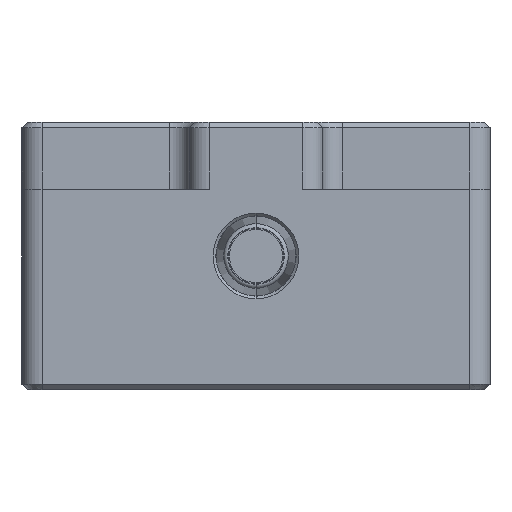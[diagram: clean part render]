
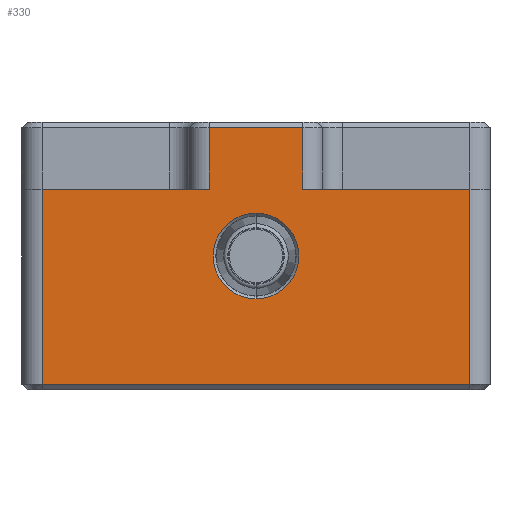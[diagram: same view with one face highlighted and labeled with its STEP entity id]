
A CAD part, front view. The second image highlights one B-rep face of the part: STEP entity #330.
In plain terms, the highlighted planar face has unit normal (0, -1, 0).
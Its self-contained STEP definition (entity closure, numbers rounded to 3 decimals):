
#82 = CARTESIAN_POINT ( 'NONE',  ( -17.5, -42.5, -9.6 ) ) ;
#102 = EDGE_CURVE ( 'NONE', #1707, #1143, #1187, .T. ) ;
#134 = AXIS2_PLACEMENT_3D ( 'NONE', #400, #579, #797 ) ;
#173 = CARTESIAN_POINT ( 'NONE',  ( 0., -42.5, -3.2 ) ) ;
#231 = ORIENTED_EDGE ( 'NONE', *, *, #1543, .F. ) ;
#252 = VERTEX_POINT ( 'NONE', #569 ) ;
#284 = DIRECTION ( 'NONE',  ( 0., 0., 1. ) ) ;
#300 = CARTESIAN_POINT ( 'NONE',  ( 0., -42.5, 0. ) ) ;
#330 = ADVANCED_FACE ( 'NONE', ( #742, #2806 ), #2154, .F. ) ;
#400 = CARTESIAN_POINT ( 'NONE',  ( -17.5, -42.5, 10. ) ) ;
#414 = EDGE_CURVE ( 'NONE', #956, #2059, #2099, .T. ) ;
#426 = CARTESIAN_POINT ( 'NONE',  ( 16., -42.5, 10. ) ) ;
#441 = VECTOR ( 'NONE', #2645, 1000. ) ;
#460 = CARTESIAN_POINT ( 'NONE',  ( 0., -42.5, 3.2 ) ) ;
#483 = CARTESIAN_POINT ( 'NONE',  ( -3.5, -42.5, 5. ) ) ;
#505 = ORIENTED_EDGE ( 'NONE', *, *, #1598, .T. ) ;
#555 = ORIENTED_EDGE ( 'NONE', *, *, #2547, .T. ) ;
#564 = AXIS2_PLACEMENT_3D ( 'NONE', #2189, #2615, #1756 ) ;
#566 = VERTEX_POINT ( 'NONE', #958 ) ;
#569 = CARTESIAN_POINT ( 'NONE',  ( -16., -42.5, 5. ) ) ;
#579 = DIRECTION ( 'NONE',  ( 0., 1., 0. ) ) ;
#609 = ORIENTED_EDGE ( 'NONE', *, *, #2164, .F. ) ;
#742 = FACE_BOUND ( 'NONE', #1610, .T. ) ;
#797 = DIRECTION ( 'NONE',  ( 0., 0., 1. ) ) ;
#816 = ORIENTED_EDGE ( 'NONE', *, *, #2121, .T. ) ;
#844 = CARTESIAN_POINT ( 'NONE',  ( -16., -42.5, -9.6 ) ) ;
#956 = VERTEX_POINT ( 'NONE', #460 ) ;
#958 = CARTESIAN_POINT ( 'NONE',  ( 16., -42.5, 5. ) ) ;
#966 = AXIS2_PLACEMENT_3D ( 'NONE', #300, #1207, #2294 ) ;
#1003 = LINE ( 'NONE', #82, #441 ) ;
#1106 = CARTESIAN_POINT ( 'NONE',  ( -3.5, -42.5, 10. ) ) ;
#1143 = VERTEX_POINT ( 'NONE', #2332 ) ;
#1148 = CARTESIAN_POINT ( 'NONE',  ( 3.5, -42.5, 10. ) ) ;
#1187 = LINE ( 'NONE', #1148, #1615 ) ;
#1189 = CARTESIAN_POINT ( 'NONE',  ( 17.5, -42.5, 5. ) ) ;
#1207 = DIRECTION ( 'NONE',  ( 0., 1., 0. ) ) ;
#1224 = VECTOR ( 'NONE', #1489, 1000. ) ;
#1226 = VERTEX_POINT ( 'NONE', #1277 ) ;
#1277 = CARTESIAN_POINT ( 'NONE',  ( -3.5, -42.5, 9.6 ) ) ;
#1288 = ORIENTED_EDGE ( 'NONE', *, *, #414, .T. ) ;
#1332 = ORIENTED_EDGE ( 'NONE', *, *, #2502, .T. ) ;
#1431 = EDGE_LOOP ( 'NONE', ( #1332, #1613, #555, #609, #1530, #505, #2437, #231 ) ) ;
#1489 = DIRECTION ( 'NONE',  ( 0., 0., -1. ) ) ;
#1530 = ORIENTED_EDGE ( 'NONE', *, *, #102, .T. ) ;
#1543 = EDGE_CURVE ( 'NONE', #252, #1920, #1694, .T. ) ;
#1598 = EDGE_CURVE ( 'NONE', #1143, #1226, #1821, .T. ) ;
#1610 = EDGE_LOOP ( 'NONE', ( #816, #1288 ) ) ;
#1613 = ORIENTED_EDGE ( 'NONE', *, *, #2134, .T. ) ;
#1615 = VECTOR ( 'NONE', #284, 1000. ) ;
#1635 = VERTEX_POINT ( 'NONE', #844 ) ;
#1682 = CARTESIAN_POINT ( 'NONE',  ( -17.5, -42.5, 5. ) ) ;
#1694 = LINE ( 'NONE', #1682, #2417 ) ;
#1702 = CARTESIAN_POINT ( 'NONE',  ( -3.5, -42.5, 9.6 ) ) ;
#1707 = VERTEX_POINT ( 'NONE', #1730 ) ;
#1710 = DIRECTION ( 'NONE',  ( -1., 0., 0. ) ) ;
#1713 = CIRCLE ( 'NONE', #966, 3.2 ) ;
#1730 = CARTESIAN_POINT ( 'NONE',  ( 3.5, -42.5, 5. ) ) ;
#1748 = VECTOR ( 'NONE', #1710, 1000. ) ;
#1756 = DIRECTION ( 'NONE',  ( 0., 0., 1. ) ) ;
#1821 = LINE ( 'NONE', #1702, #1748 ) ;
#1897 = LINE ( 'NONE', #426, #2837 ) ;
#1920 = VERTEX_POINT ( 'NONE', #483 ) ;
#2002 = LINE ( 'NONE', #2816, #1224 ) ;
#2056 = DIRECTION ( 'NONE',  ( 1., 0., 0. ) ) ;
#2059 = VERTEX_POINT ( 'NONE', #173 ) ;
#2099 = CIRCLE ( 'NONE', #564, 3.2 ) ;
#2120 = DIRECTION ( 'NONE',  ( 1., 0., 0. ) ) ;
#2121 = EDGE_CURVE ( 'NONE', #2059, #956, #1713, .T. ) ;
#2134 = EDGE_CURVE ( 'NONE', #1635, #2548, #1003, .T. ) ;
#2154 = PLANE ( 'NONE',  #134 ) ;
#2164 = EDGE_CURVE ( 'NONE', #1707, #566, #2558, .T. ) ;
#2189 = CARTESIAN_POINT ( 'NONE',  ( 0., -42.5, 0. ) ) ;
#2232 = VECTOR ( 'NONE', #2056, 1000. ) ;
#2294 = DIRECTION ( 'NONE',  ( 0., 0., 1. ) ) ;
#2332 = CARTESIAN_POINT ( 'NONE',  ( 3.5, -42.5, 9.6 ) ) ;
#2339 = VECTOR ( 'NONE', #2625, 1000. ) ;
#2374 = EDGE_CURVE ( 'NONE', #1226, #1920, #2828, .T. ) ;
#2417 = VECTOR ( 'NONE', #2120, 1000. ) ;
#2437 = ORIENTED_EDGE ( 'NONE', *, *, #2374, .T. ) ;
#2502 = EDGE_CURVE ( 'NONE', #252, #1635, #2002, .T. ) ;
#2547 = EDGE_CURVE ( 'NONE', #2548, #566, #1897, .T. ) ;
#2548 = VERTEX_POINT ( 'NONE', #2776 ) ;
#2558 = LINE ( 'NONE', #1189, #2232 ) ;
#2560 = DIRECTION ( 'NONE',  ( 0., 0., 1. ) ) ;
#2615 = DIRECTION ( 'NONE',  ( 0., 1., 0. ) ) ;
#2625 = DIRECTION ( 'NONE',  ( 0., 0., -1. ) ) ;
#2645 = DIRECTION ( 'NONE',  ( 1., 0., 0. ) ) ;
#2776 = CARTESIAN_POINT ( 'NONE',  ( 16., -42.5, -9.6 ) ) ;
#2806 = FACE_OUTER_BOUND ( 'NONE', #1431, .T. ) ;
#2816 = CARTESIAN_POINT ( 'NONE',  ( -16., -42.5, 10. ) ) ;
#2828 = LINE ( 'NONE', #1106, #2339 ) ;
#2837 = VECTOR ( 'NONE', #2560, 1000. ) ;
